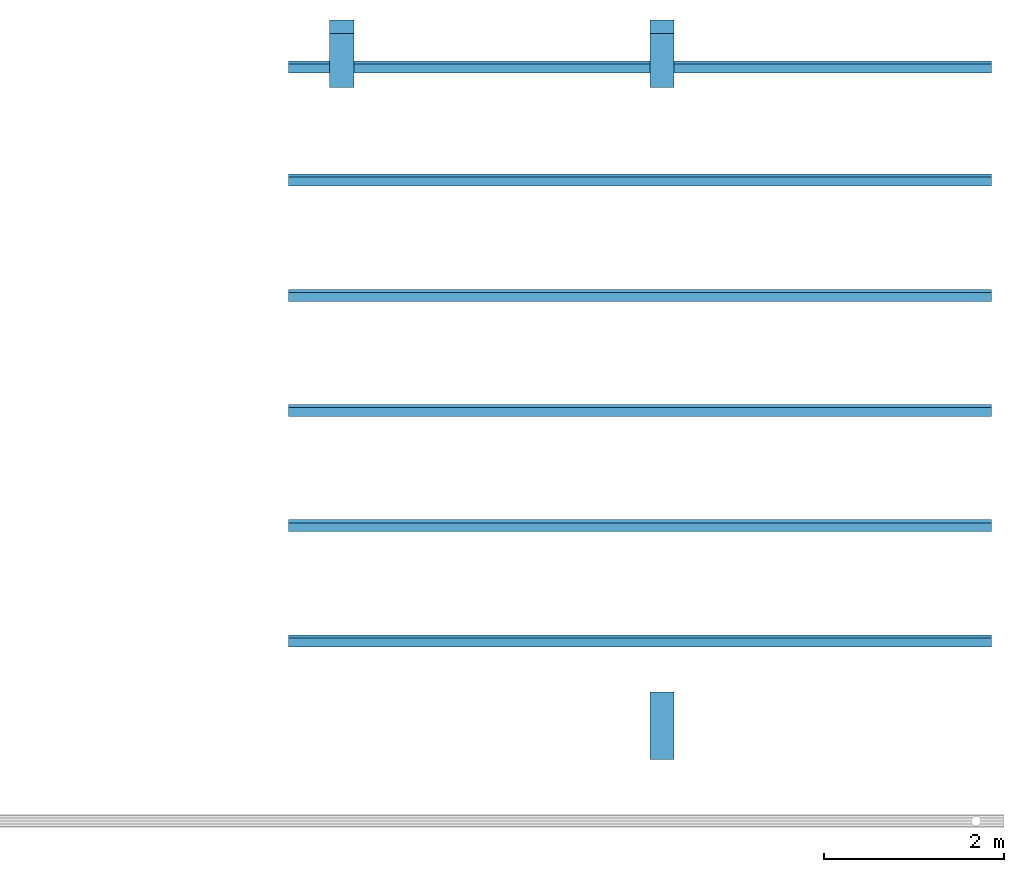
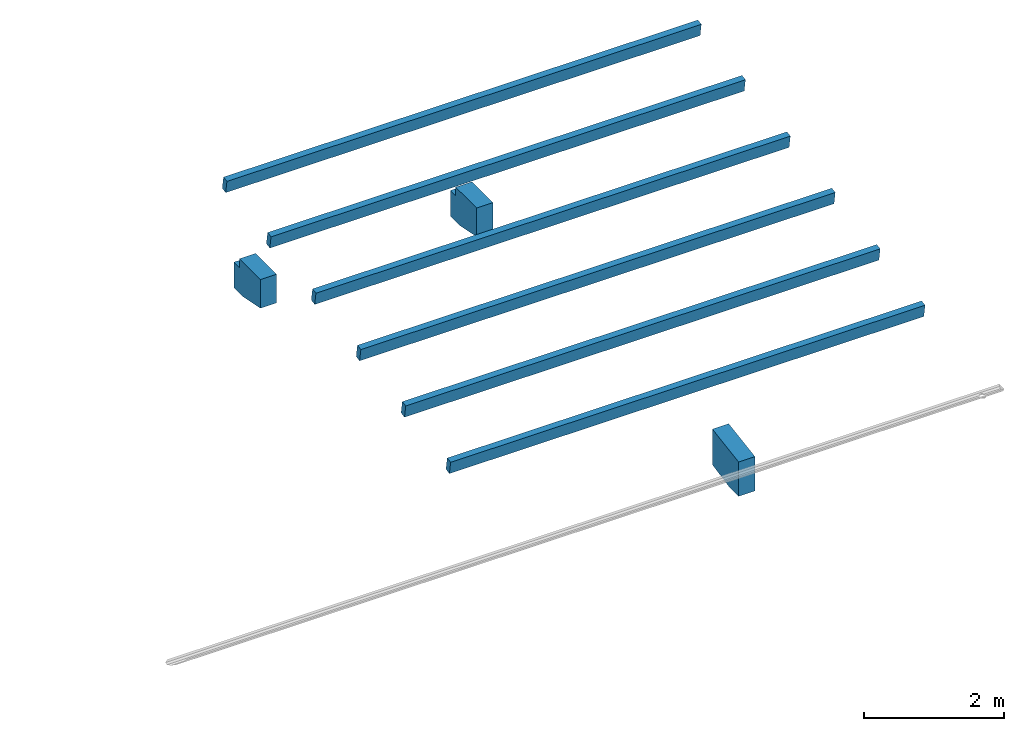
# One storey, part 1 of 2: 9 beams.
"""IFC2X3 building model written with IfcOpenShell, lengths in metres."""

from ifc_helpers import new_model, entity, si_unit, converted_unit, derived_unit, money_unit, direction, frame, origin_with_axes, place, context, subcontext, project, spatial, polyline, outline, extrude, faceted_brep, material, type_object, element, save


model = new_model("IFC2X3")

# Units and contexts
model_context = context("Model", 3, precision=1e-05, world=origin_with_axes(), true_north=direction((0.0, 1.0)))
body_context = subcontext(model_context, "Body", "Model", "MODEL_VIEW")
ifc_project = project(units=[si_unit("LENGTHUNIT", "METRE"), si_unit("AREAUNIT", "SQUARE_METRE"), si_unit("VOLUMEUNIT", "CUBIC_METRE"), converted_unit("PLANEANGLEUNIT", "DEGREE", entity("IfcPlaneAngleMeasure", 0.0174532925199), si_unit("PLANEANGLEUNIT", "RADIAN"), dimensions=[0, 0, 0, 0, 0, 0, 0]), si_unit("SOLIDANGLEUNIT", "STERADIAN"), money_unit("CHF"), converted_unit("TIMEUNIT", "Year", entity("IfcTimeMeasure", 31556926.0), si_unit("TIMEUNIT", "SECOND"), dimensions=[0, 0, 1, 0, 0, 0, 0]), si_unit("MASSUNIT", "GRAM", prefix="KILO"), si_unit("THERMODYNAMICTEMPERATUREUNIT", "DEGREE_CELSIUS"), si_unit("LUMINOUSINTENSITYUNIT", "LUMEN"), si_unit("ENERGYUNIT", "JOULE", prefix="MEGA"), derived_unit("THERMALCONDUCTANCEUNIT", [(si_unit("POWERUNIT", "WATT"), 1), (si_unit("LENGTHUNIT", "METRE"), -1), (si_unit("THERMODYNAMICTEMPERATUREUNIT", "KELVIN"), -1)]), derived_unit("SPECIFICHEATCAPACITYUNIT", [(si_unit("ENERGYUNIT", "JOULE"), 1), (si_unit("MASSUNIT", "GRAM", prefix="KILO"), -1), (si_unit("THERMODYNAMICTEMPERATUREUNIT", "KELVIN"), -1)]), derived_unit("MASSDENSITYUNIT", [(si_unit("MASSUNIT", "GRAM", prefix="KILO"), 1), (si_unit("VOLUMEUNIT", "CUBIC_METRE"), -1)])], contexts=[model_context])

# Site, building, storey
site_placement = place(None, origin_with_axes())
site = spatial("IfcSite", under=ifc_project, at=site_placement, Name="Site", CompositionType="ELEMENT")
building_placement = place(site_placement, origin_with_axes())
building = spatial("IfcBuilding", under=site, at=building_placement, Name="Bâtiment", CompositionType="ELEMENT")
storey_placement = place(building_placement, frame((0.0, 0.0, 2.8), z_axis=(0.0, 0.0, 1.0), x_axis=(1.0, 0.0, 0.0)))
storey = spatial("IfcBuildingStorey", under=building, at=storey_placement, Name="1er étage", CompositionType="ELEMENT", Elevation=2.8)

# Beams
ifc_material_1 = material(Name="Bois massif")
beam_type_1 = type_object("IfcBeamType", Name="Bois massif 100 x 220", PredefinedType="BEAM")
for number, where, z_axis, x_axis, name in (
    (1, (23.5142164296, 9.27467745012, 0.373044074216), (0.0, 0.0, 1.0), (0.0, -1.0, 0.0), "POUTRE-004"),
    (2, (23.5142164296, 10.5583512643, 0.57842552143), (0.0, 0.0, 1.0), (0.0, -1.0, 0.0), "POUTRE-004"),
    (3, (23.5142164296, 11.8420250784, 0.783806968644), (0.0, 0.0, 1.0), (0.0, -1.0, 0.0), "POUTRE-004"),
    (4, (23.5142164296, 13.1256988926, 0.989188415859), (0.0, 0.0, 1.0), (0.0, -1.0, 0.0), "POUTRE-004"),
    (5, (23.5142164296, 14.4093727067, 1.19456986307), (0.0, 0.0, 1.0), (0.0, -1.0, 0.0), "POUTRE-004"),
    (6, (23.5142164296, 15.6705177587, 1.39634682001), (0.0, 0.0, 1.0), (0.0, -1.0, 0.0), "POUTRE-004"),
):
    element("IfcBeam", number, at=place(storey_placement, frame(where, z_axis=z_axis, x_axis=x_axis)), inside=storey, type_object=beam_type_1, material=ifc_material_1, Name=name, ObjectType="BEAM", context=body_context, shape_type="Brep", body=[
        faceted_brep([(-0.066750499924, 0.0, -0.100719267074), (-0.066750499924, 7.83122992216, -0.100719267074), (0.0319936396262, 7.83122992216, -0.116517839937), (0.0319936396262, 0.0, -0.116517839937), (-0.0319936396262, 0.0, 0.116517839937), (-0.0319936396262, 7.83122992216, 0.116517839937), (0.066750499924, 7.83122992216, 0.100719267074), (0.066750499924, 0.0, 0.100719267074)], [[[0, 1, 2, 3]], [[4, 5, 1, 0]], [[2, 1, 5, 6]], [[3, 2, 6, 7]], [[4, 0, 3, 7]], [[7, 6, 5, 4]]]),
    ])
ifc_material_2 = material(Name="Béton")
beam_type_2 = type_object("IfcBeamType", Name="Tete de poteau (2) 750 x 720", PredefinedType="BEAM")
beam_placement = place(storey_placement, frame((27.5421417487, 7.9529346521, -0.769742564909), z_axis=(0.0, 0.0, 1.0), x_axis=(0.0, -1.0, 0.0)))
element("IfcBeam", 7, at=beam_placement, inside=storey, type_object=beam_type_2, material=ifc_material_2, Name="POUTRE-002", ObjectType="BEAM", context=body_context, shape_type="SweptSolid", body=[
    extrude(outline(polyline([(0.0, 0.0), (0.249968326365, 0.0), (0.75, 0.1), (0.75, 0.719996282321), (0.0, 0.6), (0.0, 0.0)])), frame((0.0, 0.27, 0.0), z_axis=(0.0, 1.0, 0.0), x_axis=(-1.0, 0.0, 0.0)), (0.0, 0.0, -1.0), 0.27),
])
beam_type_3 = type_object("IfcBeamType", Name="Tete de poteau 750 x 600", PredefinedType="BEAM")
for number, where, z_axis, x_axis, name in (
    (8, (27.8121417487, 16.1929346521, -0.878434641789), (0.0, 0.0, 1.0), (0.0, 1.0, 0.0), "POUTRE-002"),
    (9, (24.2421417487, 16.1929346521, -0.878434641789), (0.0, 0.0, 1.0), (0.0, 1.0, 0.0), "POUTRE-002"),
):
    element("IfcBeam", number, at=place(storey_placement, frame(where, z_axis=z_axis, x_axis=x_axis)), inside=storey, type_object=beam_type_3, material=ifc_material_2, Name=name, ObjectType="BEAM", context=body_context, shape_type="SweptSolid", body=[
        extrude(outline(polyline([(0.0, 0.0), (0.249968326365, 0.0), (0.75, 0.1), (0.75, 0.6), (0.15, 0.6), (0.15, 0.45), (0.0, 0.45), (0.0, 0.0)])), frame((0.0, 0.27, 0.0), z_axis=(0.0, 1.0, 0.0), x_axis=(-1.0, 0.0, 0.0)), (0.0, 0.0, -1.0), 0.27),
    ])

save(model, "model.ifc")
